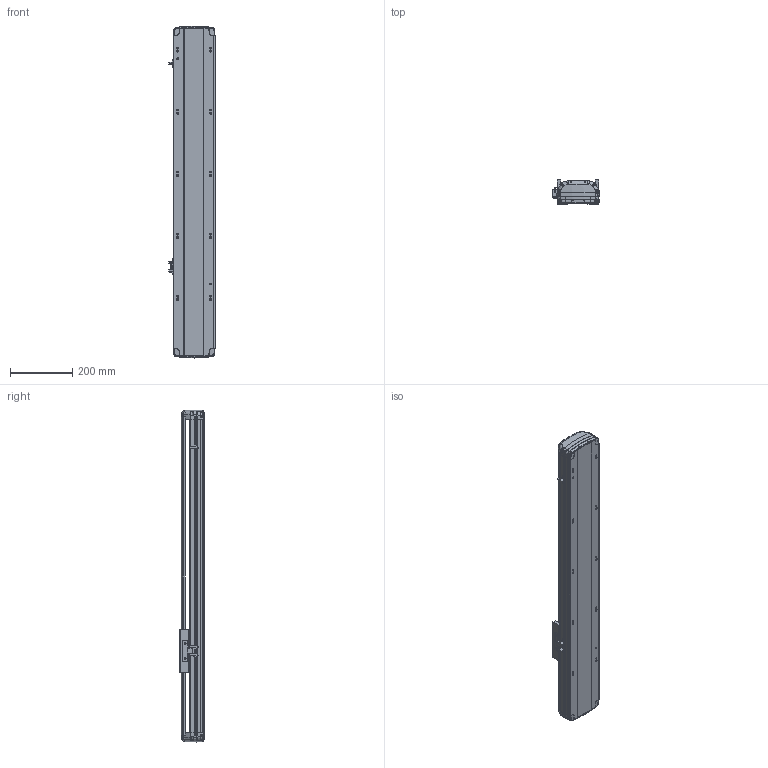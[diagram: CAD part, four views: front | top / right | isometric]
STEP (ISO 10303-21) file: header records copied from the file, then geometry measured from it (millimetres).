
FILE_DESCRIPTION (( 'STEP AP214' ), '1' );
FILE_NAME ('RTH14-XX-650-B-M20B-C4.STEP', '2025-10-24T08:37:55', ( 'Microsoft' ), ( 'Microsoft' ), 'SwSTEP 2.0', 'SolidWorks 2018', '' );
FILE_SCHEMA (( 'AUTOMOTIVE_DESIGN' ));
Length unit declared in the file: millimetre
Products named in the file (7): N_RTH14-B-007B奻裔^RTH14-XX-XX-B-M20B-C4; N_OMRON EE-SX672 传感器^RTH14-XX-XX-B-M20B-C4; N_RTH14-GY-001P^RTH14-XX-XX-B-M20B-C4; N_RTH14-B-011PB菁釱^RTH14-XX-XX-B-M20B-C4; N_RTH13-L-012感应片（外置）^RTH14-XX-XX-B-M20B-C4; RTH14-XX-650-B-M20B-C4; N_RTH14-R-004-SFSR16賑釱^RTH14-XX-XX-B-M20B-C4
Assembly tree (9 placements, depth 2):
  RTH14-XX-650-B-M20B-C4
    N_RTH14-B-011PB菁釱^RTH14-XX-XX-B-M20B-C4
    N_RTH14-B-007B奻裔^RTH14-XX-XX-B-M20B-C4
    N_RTH13-L-012感应片（外置）^RTH14-XX-XX-B-M20B-C4
    N_OMRON EE-SX672 传感器^RTH14-XX-XX-B-M20B-C4  x3
    N_RTH14-R-004-SFSR16賑釱^RTH14-XX-XX-B-M20B-C4
    N_RTH14-GY-001P^RTH14-XX-XX-B-M20B-C4  x2
Bounding box: 148.5 x 78.03 x 1068.99 mm (x, y, z)
Volume: 4392832.7 mm3; surface area: 1012606.3 mm2
Topology: 9 solids, 9 shells, 1918 faces, 5404 edges, 3518 vertices
Faces by surface type: plane 979, bspline 450, cylinder 425, cone 56, torus 8
Entity records: 46616 total; most frequent: CARTESIAN_POINT 20866, ORIENTED_EDGE 5824, DIRECTION 4275, EDGE_CURVE 2912, VERTEX_POINT 1904, VECTOR 1639, LINE 1639, AXIS2_PLACEMENT_3D 1318
